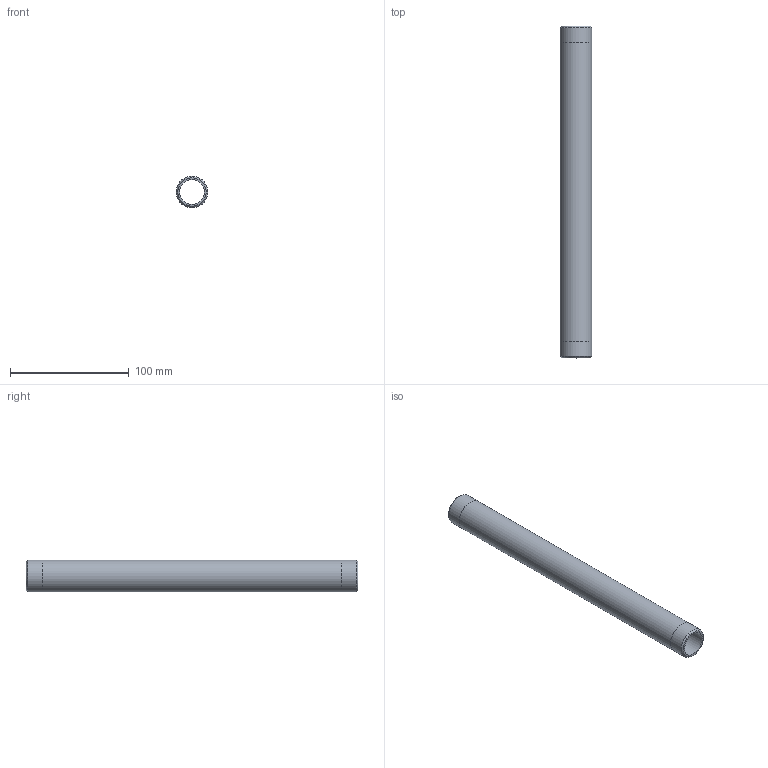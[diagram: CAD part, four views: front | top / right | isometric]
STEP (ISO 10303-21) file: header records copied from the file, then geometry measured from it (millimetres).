
FILE_DESCRIPTION(/* description */ (''),/* implementation_level */ '2;1');
FILE_NAME(/* name */ 'C:/Users/drich/Desktop/BPN34-11 v1.step',/* time_stamp */ '2020-01-03T15:18:59-06:00',/* author */ (''),/* organization */ (''),/* preprocessor_version */ 'ST-DEVELOPER v18',/* originating_system */ 'Autodesk Translation Framework v8.12.0.6',/* authorisation */ '');
FILE_SCHEMA (('AUTOMOTIVE_DESIGN { 1 0 10303 214 3 1 1 }'));
Length unit declared in the file: inch
Products named in the file (1): BPN34-11
Bounding box: 26.67 x 279.4 x 26.67 mm (x, y, z)
Volume: 59743.7 mm3; surface area: 42063.9 mm2
Topology: 1 solids, 1 shells, 10 faces, 24 edges, 18 vertices
Faces by surface type: cylinder 4, plane 4, cone 2
Full cylindrical faces by diameter (mm): 20.93 x1, 26.619 x2, 26.67 x1
Entity records: 360 total; most frequent: DIRECTION 64, CARTESIAN_POINT 53, ORIENTED_EDGE 48, AXIS2_PLACEMENT_3D 29, EDGE_CURVE 24, CIRCLE 18, VERTEX_POINT 18, EDGE_LOOP 14
